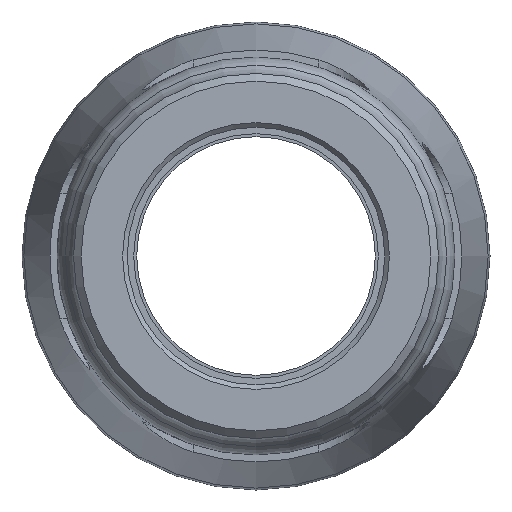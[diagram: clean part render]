
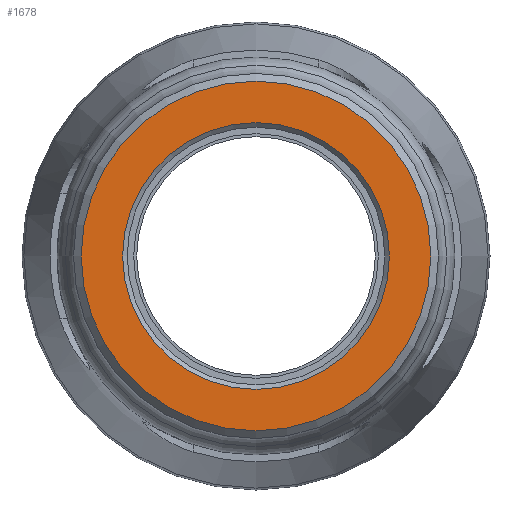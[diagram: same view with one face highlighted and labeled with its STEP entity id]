
A CAD part, left-side view. The second image highlights one B-rep face of the part: STEP entity #1678.
In plain terms, the highlighted planar face has unit normal (-1, 0, 0).
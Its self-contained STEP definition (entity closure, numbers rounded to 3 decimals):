
#23=FACE_BOUND('',#400,.T.);
#55=PLANE('',#1829);
#291=FACE_OUTER_BOUND('',#399,.T.);
#399=EDGE_LOOP('',(#1155));
#400=EDGE_LOOP('',(#1156));
#543=CIRCLE('',#1828,29.358);
#544=CIRCLE('',#1830,38.47);
#714=VERTEX_POINT('',#2936);
#715=VERTEX_POINT('',#2939);
#885=EDGE_CURVE('',#714,#714,#543,.T.);
#886=EDGE_CURVE('',#715,#715,#544,.T.);
#1155=ORIENTED_EDGE('',*,*,#886,.F.);
#1156=ORIENTED_EDGE('',*,*,#885,.F.);
#1678=ADVANCED_FACE('',(#291,#23),#55,.T.);
#1828=AXIS2_PLACEMENT_3D('',#2937,#2109,#2110);
#1829=AXIS2_PLACEMENT_3D('',#2938,#2111,#2112);
#1830=AXIS2_PLACEMENT_3D('',#2940,#2113,#2114);
#2109=DIRECTION('center_axis',(-1.,0.,0.));
#2110=DIRECTION('ref_axis',(0.,-1.,0.));
#2111=DIRECTION('center_axis',(-1.,0.,0.));
#2112=DIRECTION('ref_axis',(0.,0.,1.));
#2113=DIRECTION('center_axis',(1.,0.,0.));
#2114=DIRECTION('ref_axis',(0.,-1.,0.));
#2936=CARTESIAN_POINT('',(0.,29.358,0.));
#2937=CARTESIAN_POINT('Origin',(0.,0.,0.));
#2938=CARTESIAN_POINT('Origin',(0.,40.17,0.));
#2939=CARTESIAN_POINT('',(0.,38.47,0.));
#2940=CARTESIAN_POINT('Origin',(0.,0.,0.));
